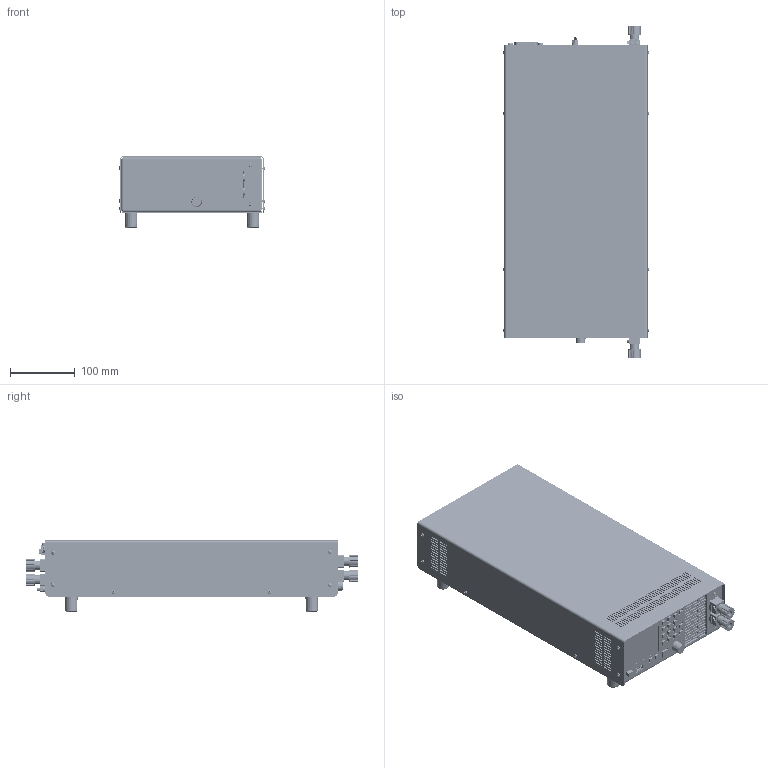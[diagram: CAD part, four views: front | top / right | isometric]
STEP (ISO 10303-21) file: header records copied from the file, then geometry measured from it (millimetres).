
FILE_DESCRIPTION(('STEP AP214'),'1');
FILE_NAME('PLI_M3_H19Z_2HE_BPK4_60L_BPK4_60L_BRB_3D_04.step','2024-06-03T09:01:00',(' '),(' '),'Spatial InterOp 3D',' ',' ');
FILE_SCHEMA(('AUTOMOTIVE_DESIGN { 1 0 10303 214 1 1 1 1 }'));
Length unit declared in the file: millimetre
Products named in the file (19): 420_PLI_Halb19_Zoll_Deckel_3D_02; DIN 7985-AxM3 X 0.5x4; 1419_PLI_Halb19_Zoll_Rückwand_3D_05_mit_Einbauten_BPK4_60L_BRB_02; 1F840730; 3xM2.5_5x5x12; *U323; *U324; *U325; 1419_PLI_Halb19_Zoll_Rückwand_3D_06; PEM_M3_; AutoCreatedBlock_1072; DA M3x5; AutoCreatedBlock_1060; 1590_PLI_Frontpl_halb19Zoll_mit_Sil_Tast_3D_03_mit_Einbauten_und_Overlay_PBK4_60L_BRB_02; PLI_Frontplatteneinbauten_nur_für_3D_Modellkonstruktion_3D; A$C5F9A8610; AutoCreatedBlock_1078; AutoCreatedBlock_1052
Assembly tree (43 placements, depth 4):
  (unnamed)
    420_PLI_Halb19_Zoll_Deckel_3D_02
    DIN 7985-AxM3 X 0.5x4  x12
    1419_PLI_Halb19_Zoll_Rückwand_3D_05_mit_Einbauten_BPK4_60L_BRB_02
      1F840730  x2
      3xM2.5_5x5x12  x2
      *U323
      *U324  x3
      *U325  x2
      1419_PLI_Halb19_Zoll_Rückwand_3D_06
        PEM_M3_  x7
        AutoCreatedBlock_1072
      DA M3x5  x4
      AutoCreatedBlock_1060
    1590_PLI_Frontpl_halb19Zoll_mit_Sil_Tast_3D_03_mit_Einbauten_und_Overlay_PBK4_60L_BRB_02
      PLI_Frontplatteneinbauten_nur_für_3D_Modellkonstruktion_3D
      A$C5F9A8610
      AutoCreatedBlock_1078
    AutoCreatedBlock_1052
Bounding box: 224.31 x 510.94 x 109.5 mm (x, y, z)
Volume: 7834261.1 mm3; surface area: 1021917.3 mm2
Topology: 100 solids, 136 shells, 12337 faces, 34317 edges, 22734 vertices
Faces by surface type: plane 8451, cylinder 2151, cone 1220, bspline 205, torus 190, sphere 102, extrusion 18
Entity records: 457400 total; most frequent: CARTESIAN_POINT 89996, ORIENTED_EDGE 58650, DIRECTION 55273, EDGE_CURVE 29434, VECTOR 22137, LINE 22119, VERTEX_POINT 19230, AXIS2_PLACEMENT_3D 16568
